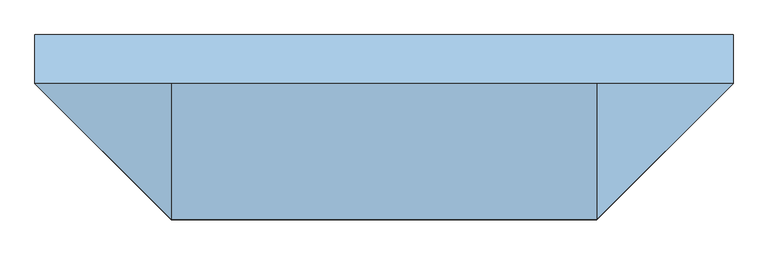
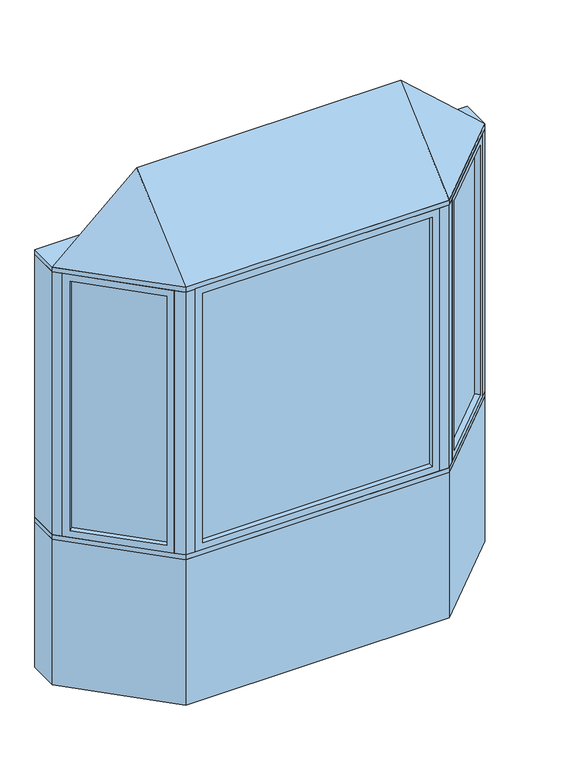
"""IFC4 building model written with IfcOpenShell, lengths in millimetres: window geometry, Pollard_Windows_Tudor Casement Bows and Bays : AML-BAY 45 AFR0514-12-500."""

from ifc_helpers import new_model, si_unit, frame, origin, origin_with_axes, place, context, project, spatial, polyline, outline, extrude, faceted_brep, source, transform, mapped, element, save


def window_ffd23e29(model_context):
    return source(origin(), model_context, "Body", "SolidModel", [
        extrude(outline(polyline([(1024.0964271, -104.763169), (698.324814, -430.5347822), (694.7327115, -426.9426797), (1020.5043247, -101.1710666), (1024.0964271, -104.763169)])), frame((0.0, 0.0, 823.1628), z_axis=(0.0, 0.0, 1.0), x_axis=(1.0, 0.0, 0.0)), (0.0, 0.0, 1.0), 1353.6704),
        faceted_brep([(1015.116171, -113.7434252, 835.8628), (1033.0766833, -131.7039374, 835.8628), (1033.0766833, -131.7039374, 2164.1332), (1015.116171, -113.7434252, 2164.1332), (1020.5043247, -101.1710666, 823.1628), (1024.0964271, -104.763169, 823.1628), (1024.0964271, -104.763169, 2176.8332), (1020.5043247, -101.1710666, 2176.8332), (993.5635563, -92.1908105, 835.8628), (1011.5240686, -110.1513227, 835.8628), (1011.5240686, -110.1513227, 2164.1332), (993.5635563, -92.1908105, 2164.1332), (1058.4369265, -106.3436941, 799.998), (1018.9237996, -66.8305672, 799.998), (1018.9237996, -66.8305672, 2199.998), (1058.4369265, -106.3436941, 2199.998), (725.2655823, -439.5150383, 2164.1332), (707.3050701, -421.5545261, 2164.1332), (698.324814, -430.5347822, 2176.8332), (694.7327115, -426.9426797, 2176.8332), (703.7129677, -417.9624236, 2164.1332), (685.7524554, -400.0019114, 2164.1332), (660.3922121, -425.3621547, 2199.998), (699.9053391, -464.8752816, 2199.998), (725.2655823, -439.5150383, 835.8628), (707.3050701, -421.5545261, 835.8628), (698.324814, -430.5347822, 823.1628), (694.7327115, -426.9426797, 823.1628), (703.7129677, -417.9624236, 835.8628), (685.7524554, -400.0019114, 835.8628), (660.3922121, -425.3621547, 799.998), (699.9053391, -464.8752816, 799.998)], [[[0, 1, 2, 3]], [[4, 5, 6, 7]], [[8, 9, 10, 11]], [[12, 13, 14, 15]], [[3, 2, 16, 17]], [[7, 6, 18, 19]], [[11, 10, 20, 21]], [[15, 14, 22, 23]], [[17, 16, 24, 25]], [[19, 18, 26, 27]], [[21, 20, 28, 29]], [[23, 22, 30, 31]], [[25, 24, 1, 0]], [[5, 26, 18, 6], [3, 17, 25, 0]], [[27, 26, 5, 4]], [[7, 19, 27, 4], [9, 28, 20, 10]], [[29, 28, 9, 8]], [[13, 30, 22, 14], [11, 21, 29, 8]], [[31, 30, 13, 12]], [[15, 23, 31, 12], [1, 24, 16, 2]]]),
        extrude(outline(polyline([(-698.324814, -430.5347822), (-1024.0964271, -104.763169), (-1020.5043247, -101.1710666), (-694.7327115, -426.9426797), (-698.324814, -430.5347822)])), frame((0.0, 0.0, 823.1628), z_axis=(0.0, 0.0, 1.0), x_axis=(1.0, 0.0, 0.0)), (0.0, 0.0, 1.0), 1353.6704),
        faceted_brep([(-703.7129677, -417.9624236, 2164.1332), (-685.7524554, -400.0019114, 2164.1332), (-685.7524554, -400.0019114, 835.8628), (-703.7129677, -417.9624236, 835.8628), (-698.324814, -430.5347822, 2176.8332), (-694.7327115, -426.9426797, 2176.8332), (-694.7327115, -426.9426797, 823.1628), (-698.324814, -430.5347822, 823.1628), (-725.2655823, -439.5150383, 2164.1332), (-707.3050701, -421.5545261, 2164.1332), (-707.3050701, -421.5545261, 835.8628), (-725.2655823, -439.5150383, 835.8628), (-660.3922121, -425.3621547, 2199.998), (-699.9053391, -464.8752816, 2199.998), (-699.9053391, -464.8752816, 799.998), (-660.3922121, -425.3621547, 799.998), (-993.5635563, -92.1908105, 835.8628), (-1011.5240686, -110.1513227, 835.8628), (-1020.5043247, -101.1710666, 823.1628), (-1024.0964271, -104.763169, 823.1628), (-1015.116171, -113.7434252, 835.8628), (-1033.0766833, -131.7039374, 835.8628), (-1058.4369265, -106.3436941, 799.998), (-1018.9237996, -66.8305672, 799.998), (-993.5635563, -92.1908105, 2164.1332), (-1011.5240686, -110.1513227, 2164.1332), (-1020.5043247, -101.1710666, 2176.8332), (-1024.0964271, -104.763169, 2176.8332), (-1015.116171, -113.7434252, 2164.1332), (-1033.0766833, -131.7039374, 2164.1332), (-1058.4369265, -106.3436941, 2199.998), (-1018.9237996, -66.8305672, 2199.998)], [[[0, 1, 2, 3]], [[4, 5, 6, 7]], [[8, 9, 10, 11]], [[12, 13, 14, 15]], [[3, 2, 16, 17]], [[7, 6, 18, 19]], [[11, 10, 20, 21]], [[15, 14, 22, 23]], [[17, 16, 24, 25]], [[19, 18, 26, 27]], [[21, 20, 28, 29]], [[23, 22, 30, 31]], [[15, 23, 31, 12], [1, 24, 16, 2]], [[25, 24, 1, 0]], [[5, 26, 18, 6], [3, 17, 25, 0]], [[27, 26, 5, 4]], [[7, 19, 27, 4], [9, 28, 20, 10]], [[29, 28, 9, 8]], [[13, 30, 22, 14], [11, 21, 29, 8]], [[31, 30, 13, 12]]]),
        extrude(outline(polyline([(591.3852, -474.8306207), (-591.3852, -474.8306207), (-591.3852, -469.7506207), (591.3852, -469.7506207), (591.3852, -474.8306207)])), frame((0.0, 0.0, 823.1628), z_axis=(0.0, 0.0, 1.0), x_axis=(1.0, 0.0, 0.0)), (0.0, 0.0, 1.0), 1353.6704),
        faceted_brep([(578.6852, -474.8306207, 835.8628), (578.6852, -500.2306207, 835.8628), (578.6852, -500.2306207, 2164.1332), (578.6852, -474.8306207, 2164.1332), (591.3852, -469.7506207, 823.1628), (591.3852, -474.8306207, 823.1628), (591.3852, -474.8306207, 2176.8332), (591.3852, -469.7506207, 2176.8332), (578.6852, -444.3506207, 835.8628), (578.6852, -469.7506207, 835.8628), (578.6852, -469.7506207, 2164.1332), (578.6852, -444.3506207, 2164.1332), (614.55, -500.2306207, 799.998), (614.55, -444.3506207, 799.998), (614.55, -444.3506207, 2199.998), (614.55, -500.2306207, 2199.998), (-578.6852, -500.2306207, 2164.1332), (-578.6852, -474.8306207, 2164.1332), (-591.3852, -474.8306207, 2176.8332), (-591.3852, -469.7506207, 2176.8332), (-578.6852, -469.7506207, 2164.1332), (-578.6852, -444.3506207, 2164.1332), (-614.55, -444.3506207, 2199.998), (-614.55, -500.2306207, 2199.998), (-578.6852, -500.2306207, 835.8628), (-578.6852, -474.8306207, 835.8628), (-591.3852, -474.8306207, 823.1628), (-591.3852, -469.7506207, 823.1628), (-578.6852, -469.7506207, 835.8628), (-578.6852, -444.3506207, 835.8628), (-614.55, -444.3506207, 799.998), (-614.55, -500.2306207, 799.998)], [[[0, 1, 2, 3]], [[4, 5, 6, 7]], [[8, 9, 10, 11]], [[12, 13, 14, 15]], [[3, 2, 16, 17]], [[7, 6, 18, 19]], [[11, 10, 20, 21]], [[15, 14, 22, 23]], [[17, 16, 24, 25]], [[19, 18, 26, 27]], [[21, 20, 28, 29]], [[23, 22, 30, 31]], [[15, 23, 31, 12], [1, 24, 16, 2]], [[25, 24, 1, 0]], [[5, 26, 18, 6], [3, 17, 25, 0]], [[27, 26, 5, 4]], [[7, 19, 27, 4], [9, 28, 20, 10]], [[29, 28, 9, 8]], [[13, 30, 22, 14], [11, 21, 29, 8]], [[31, 30, 13, 12]]]),
        faceted_brep([(1090.0, -74.7806207, 2225.398), (664.55, -500.2306207, 2225.398), (-664.55, -500.2306207, 2225.398), (-1090.0, -74.7806207, 2225.398), (-664.55, -74.7806207, 2606.398), (664.55, -74.7806207, 2606.398)], [[[0, 1, 2, 3]], [[3, 2, 4]], [[2, 1, 5, 4]], [[1, 0, 5]], [[0, 3, 4, 5]]]),
        extrude(outline(polyline([(-1090.0, 77.6193793), (1090.0, 77.6193793), (1090.0, -74.7806207), (664.55, -500.2306207), (-664.55, -500.2306207), (-1090.0, -74.7806207), (-1090.0, 77.6193793)])), frame((0.0, 0.0, 2199.998), z_axis=(0.0, 0.0, 1.0), x_axis=(1.0, 0.0, 0.0)), (0.0, 0.0, 1.0), 25.4),
        extrude(outline(polyline([(-1090.0, -74.7806207), (-1090.0, 77.6193793), (-1026.8738531, 77.6193793), (-1026.8738531, -74.7806207), (-1058.4369265, -106.3436941), (-1090.0, -74.7806207)])), frame((0.0, 0.0, 799.998), z_axis=(0.0, 0.0, 1.0), x_axis=(1.0, 0.0, 0.0)), (0.0, 0.0, 1.0), 1400.0),
        extrude(outline(polyline([(1090.0, 77.6193793), (1090.0, -74.7806207), (1058.4369265, -106.3436941), (1026.8738531, -74.7806207), (1026.8738531, 77.6193793), (1090.0, 77.6193793)])), frame((0.0, 0.0, 799.998), z_axis=(0.0, 0.0, 1.0), x_axis=(1.0, 0.0, 0.0)), (0.0, 0.0, 1.0), 1400.0),
        extrude(outline(polyline([(664.55, -500.2306207), (614.55, -500.2306207), (614.55, -450.2306207), (643.8393219, -450.2306207), (664.55, -429.5199425), (699.9053391, -464.8752816), (664.55, -500.2306207)])), frame((0.0, 0.0, 799.998), z_axis=(0.0, 0.0, 1.0), x_axis=(1.0, 0.0, 0.0)), (0.0, 0.0, 1.0), 1400.0),
        extrude(outline(polyline([(-664.55, -500.2306207), (-699.9053391, -464.8752816), (-664.55, -429.5199425), (-643.8393219, -450.2306207), (-614.55, -450.2306207), (-614.55, -500.2306207), (-664.55, -500.2306207)])), frame((0.0, 0.0, 799.998), z_axis=(0.0, 0.0, 1.0), x_axis=(1.0, 0.0, 0.0)), (0.0, 0.0, 1.0), 1400.0),
        extrude(outline(polyline([(-664.55, -500.2306207), (-1090.0, -74.7806207), (-1090.0, 77.6193793), (-1026.8738531, 77.6193793), (-601.4238531, -347.8306207), (601.4238531, -347.8306207), (1026.8738531, 77.6193793), (1090.0, 77.6193793), (1090.0, -74.7806207), (664.55, -500.2306207), (-664.55, -500.2306207)])), frame((0.0, 0.0, 774.598), z_axis=(0.0, 0.0, 1.0), x_axis=(1.0, 0.0, 0.0)), (0.0, 0.0, 1.0), 25.4),
        extrude(outline(polyline([(-1090.0, -74.7806207), (-1090.0, 77.6193793), (-1026.8738531, 77.6193793), (-601.4238531, -347.8306207), (601.4238531, -347.8306207), (1026.8738531, 77.6193793), (1090.0, 77.6193793), (1090.0, -74.7806207), (664.55, -500.2306207), (-664.55, -500.2306207), (-1090.0, -74.7806207)])), origin_with_axes(), (0.0, 0.0, 1.0), 774.598),
    ])


if __name__ == "__main__":
    model = new_model("IFC4")
    model_context = context("Model", 3, world=origin())
    ifc_project = project(units=[si_unit("LENGTHUNIT", "METRE", prefix="MILLI")], contexts=[model_context])
    site = spatial("IfcSite", under=ifc_project)
    building = spatial("IfcBuilding", under=site)
    placement = place(None, origin())
    window_shape = window_ffd23e29(model_context)
    element("IfcWindow", 1, ObjectType="Pollard_Windows_Tudor Casement Bows and Bays : AML-BAY 45 AFR0514-12-500", at=placement, inside=building, context=model_context, shape_type="MappedRepresentation", body=[
        mapped(window_shape, transform((0.0, 0.0, 0.0), x_axis=(1.0, 0.0, 0.0), y_axis=(0.0, 1.0, 0.0), z_axis=(0.0, 0.0, 1.0))),
    ])
    save(model, "model.ifc")
